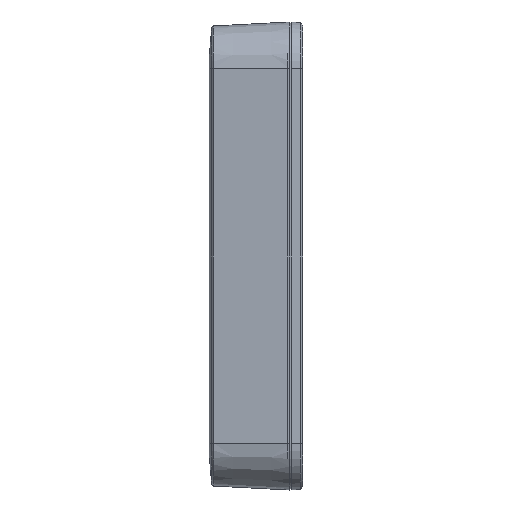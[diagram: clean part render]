
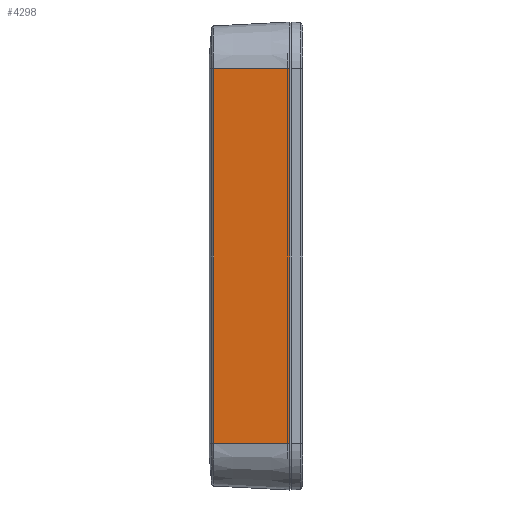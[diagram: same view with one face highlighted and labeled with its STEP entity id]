
A CAD part, left-side view. The second image highlights one B-rep face of the part: STEP entity #4298.
In plain terms, the highlighted planar face has unit normal (-0.999, 0.052, 0).
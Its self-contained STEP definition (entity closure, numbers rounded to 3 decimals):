
#477 = EDGE_CURVE ( 'NONE', #5666, #11227, #8947, .T. ) ;
#680 = LINE ( 'NONE', #12133, #975 ) ;
#786 = EDGE_LOOP ( 'NONE', ( #6091, #1700, #10158, #3173 ) ) ;
#975 = VECTOR ( 'NONE', #14835, 1000. ) ;
#1466 = AXIS2_PLACEMENT_3D ( 'NONE', #12213, #4080, #1770 ) ;
#1700 = ORIENTED_EDGE ( 'NONE', *, *, #6546, .T. ) ;
#1730 = CARTESIAN_POINT ( 'NONE',  ( -100., 0., 80. ) ) ;
#1770 = DIRECTION ( 'NONE',  ( -0.052, -0.999, 0. ) ) ;
#2465 = CARTESIAN_POINT ( 'NONE',  ( -100., 0., -80. ) ) ;
#3173 = ORIENTED_EDGE ( 'NONE', *, *, #477, .T. ) ;
#3700 = FACE_OUTER_BOUND ( 'NONE', #786, .T. ) ;
#4080 = DIRECTION ( 'NONE',  ( -0.999, 0.052, 0. ) ) ;
#4280 = DIRECTION ( 'NONE',  ( 0., 0., 1. ) ) ;
#4298 = ADVANCED_FACE ( 'NONE', ( #3700 ), #8440, .T. ) ;
#5623 = VECTOR ( 'NONE', #5674, 1000. ) ;
#5666 = VERTEX_POINT ( 'NONE', #2465 ) ;
#5674 = DIRECTION ( 'NONE',  ( 0., 0., -1. ) ) ;
#6091 = ORIENTED_EDGE ( 'NONE', *, *, #8879, .F. ) ;
#6408 = DIRECTION ( 'NONE',  ( -0.052, -0.999, 0. ) ) ;
#6487 = CARTESIAN_POINT ( 'NONE',  ( -100., 0., -80. ) ) ;
#6546 = EDGE_CURVE ( 'NONE', #10227, #14984, #9264, .T. ) ;
#7173 = VECTOR ( 'NONE', #6408, 1000. ) ;
#8440 = PLANE ( 'NONE',  #1466 ) ;
#8617 = CARTESIAN_POINT ( 'NONE',  ( -98.297, 32.489, 80. ) ) ;
#8831 = EDGE_CURVE ( 'NONE', #14984, #5666, #11295, .T. ) ;
#8879 = EDGE_CURVE ( 'NONE', #10227, #11227, #680, .T. ) ;
#8947 = LINE ( 'NONE', #1730, #10699 ) ;
#9264 = LINE ( 'NONE', #12792, #5623 ) ;
#10158 = ORIENTED_EDGE ( 'NONE', *, *, #8831, .T. ) ;
#10227 = VERTEX_POINT ( 'NONE', #8617 ) ;
#10699 = VECTOR ( 'NONE', #4280, 1000. ) ;
#11227 = VERTEX_POINT ( 'NONE', #11782 ) ;
#11295 = LINE ( 'NONE', #6487, #7173 ) ;
#11782 = CARTESIAN_POINT ( 'NONE',  ( -100., 0., 80. ) ) ;
#12133 = CARTESIAN_POINT ( 'NONE',  ( -100., 0., 80. ) ) ;
#12213 = CARTESIAN_POINT ( 'NONE',  ( -100., 0., 80. ) ) ;
#12792 = CARTESIAN_POINT ( 'NONE',  ( -98.297, 32.489, -80. ) ) ;
#14762 = CARTESIAN_POINT ( 'NONE',  ( -98.297, 32.489, -80. ) ) ;
#14835 = DIRECTION ( 'NONE',  ( -0.052, -0.999, 0. ) ) ;
#14984 = VERTEX_POINT ( 'NONE', #14762 ) ;
